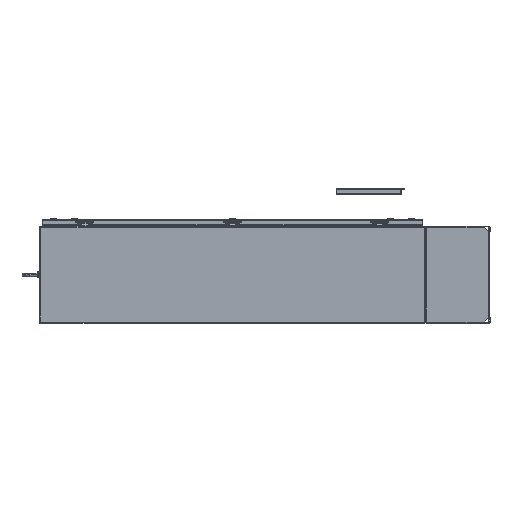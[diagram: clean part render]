
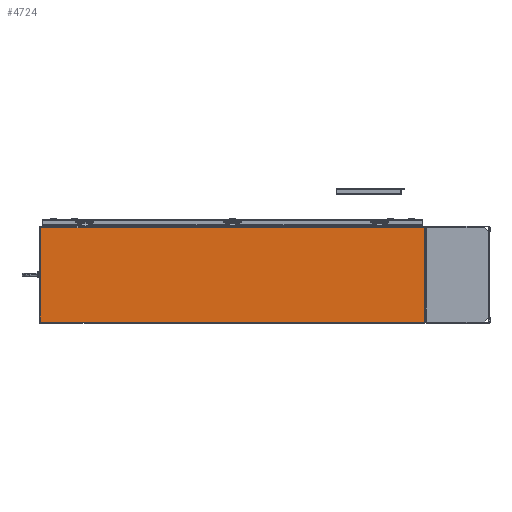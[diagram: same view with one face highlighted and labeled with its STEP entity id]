
A CAD part, left-side view. The second image highlights one B-rep face of the part: STEP entity #4724.
In plain terms, the highlighted planar face has unit normal (-1, 0, 0) as drawn and (1, 0, 0) by its records, which use the part's own axes.
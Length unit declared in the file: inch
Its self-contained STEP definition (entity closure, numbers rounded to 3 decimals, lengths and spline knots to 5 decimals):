
#4724 = ADVANCED_FACE ( 'NONE', ( #15660 ), #17278, .T. ) ;
#8418 = CARTESIAN_POINT ( 'NONE',  ( 0., 35.9125, 0. ) ) ;
#8425 = DIRECTION ( 'NONE',  ( 0., 0., 1. ) ) ;
#10640 = EDGE_LOOP ( 'NONE', ( #72009, #19263, #72056, #72797 ) ) ;
#14075 = EDGE_CURVE ( 'NONE', #21765, #21652, #76594, .T. ) ;
#14422 = EDGE_CURVE ( 'NONE', #21652, #21975, #27936, .T. ) ;
#14464 = EDGE_CURVE ( 'NONE', #21539, #21765, #28004, .T. ) ;
#15660 = FACE_OUTER_BOUND ( 'NONE', #10640, .T. ) ;
#17273 = CARTESIAN_POINT ( 'NONE',  ( 0., -35.9125, 0. ) ) ;
#17278 = PLANE ( 'NONE',  #24491 ) ;
#17283 = DIRECTION ( 'NONE',  ( 1., 0., 0. ) ) ;
#17284 = DIRECTION ( 'NONE',  ( 0., 0., -1. ) ) ;
#19263 = ORIENTED_EDGE ( 'NONE', *, *, #14075, .T. ) ;
#21539 = VERTEX_POINT ( 'NONE', #35123 ) ;
#21652 = VERTEX_POINT ( 'NONE', #35236 ) ;
#21765 = VERTEX_POINT ( 'NONE', #35349 ) ;
#21975 = VERTEX_POINT ( 'NONE', #35559 ) ;
#24491 = AXIS2_PLACEMENT_3D ( 'NONE', #17273, #17283, #17284 ) ;
#27928 = VECTOR ( 'NONE', #8425, 39.37008 ) ;
#27936 = LINE ( 'NONE', #8418, #27928 ) ;
#28004 = LINE ( 'NONE', #80753, #28005 ) ;
#28005 = VECTOR ( 'NONE', #80754, 39.37008 ) ;
#32382 = EDGE_CURVE ( 'NONE', #21975, #21539, #76696, .T. ) ;
#35123 = CARTESIAN_POINT ( 'NONE',  ( 0., -35.9125, 0. ) ) ;
#35236 = CARTESIAN_POINT ( 'NONE',  ( 0., 35.9125, -17.71 ) ) ;
#35349 = CARTESIAN_POINT ( 'NONE',  ( 0., -35.9125, -17.71 ) ) ;
#35559 = CARTESIAN_POINT ( 'NONE',  ( 0., 35.9125, 0. ) ) ;
#72009 = ORIENTED_EDGE ( 'NONE', *, *, #14464, .T. ) ;
#72056 = ORIENTED_EDGE ( 'NONE', *, *, #14422, .T. ) ;
#72797 = ORIENTED_EDGE ( 'NONE', *, *, #32382, .T. ) ;
#74031 = CARTESIAN_POINT ( 'NONE',  ( 0., 35.9125, 0. ) ) ;
#74032 = DIRECTION ( 'NONE',  ( 0., -1., 0. ) ) ;
#76594 = LINE ( 'NONE', #84039, #76621 ) ;
#76621 = VECTOR ( 'NONE', #84044, 39.37008 ) ;
#76696 = LINE ( 'NONE', #74031, #76697 ) ;
#76697 = VECTOR ( 'NONE', #74032, 39.37008 ) ;
#80753 = CARTESIAN_POINT ( 'NONE',  ( 0., -35.9125, 0. ) ) ;
#80754 = DIRECTION ( 'NONE',  ( 0., 0., -1. ) ) ;
#84039 = CARTESIAN_POINT ( 'NONE',  ( 0., -35.9125, -17.71 ) ) ;
#84044 = DIRECTION ( 'NONE',  ( 0., 1., 0. ) ) ;
